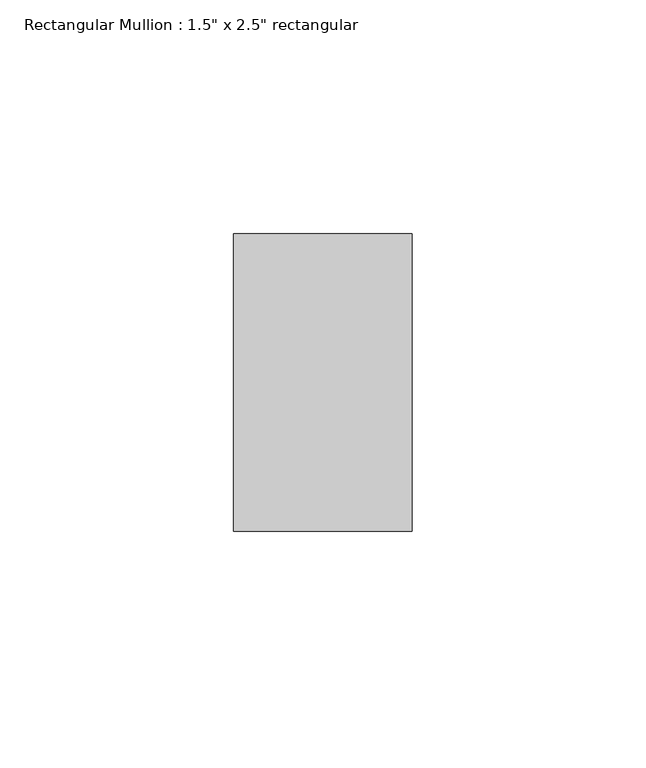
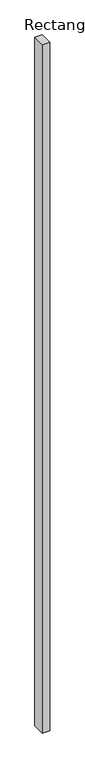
"""IFC4 building model written with IfcOpenShell, lengths in millimetres: member geometry."""

from ifc_helpers import new_model, si_unit, frame, origin, place, context, project, spatial, polyline, outline, extrude, source, transform, mapped, element, save


def member_0491a5d0(model_context):
    return source(origin(), model_context, "Body", "SweptSolid", [
        extrude(outline(polyline([(0.0, 31.75), (0.0, -31.75), (-38.1, -31.75), (-38.1, 31.75), (0.0, 31.75)])), frame((0.0, 0.0, -3666.6228811), z_axis=(0.0, 0.0, 1.0), x_axis=(1.0, 0.0, 0.0)), (0.0, 0.0, 1.0), 3666.6228811),
    ])


if __name__ == "__main__":
    model = new_model("IFC4")
    model_context = context("Model", 3, world=origin())
    ifc_project = project(units=[si_unit("LENGTHUNIT", "METRE", prefix="MILLI")], contexts=[model_context])
    site = spatial("IfcSite", under=ifc_project)
    building = spatial("IfcBuilding", under=site)
    placement = place(None, origin())
    member_shape = member_0491a5d0(model_context)
    element("IfcMember", 1, ObjectType="Rectangular Mullion : 1.5\" x 2.5\" rectangular", at=placement, inside=building, context=model_context, shape_type="MappedRepresentation", body=[
        mapped(member_shape, transform((0.0, 0.0, 0.0), x_axis=(1.0, 0.0, 0.0), y_axis=(0.0, 1.0, 0.0), z_axis=(0.0, 0.0, 1.0))),
    ])
    save(model, "model.ifc")
